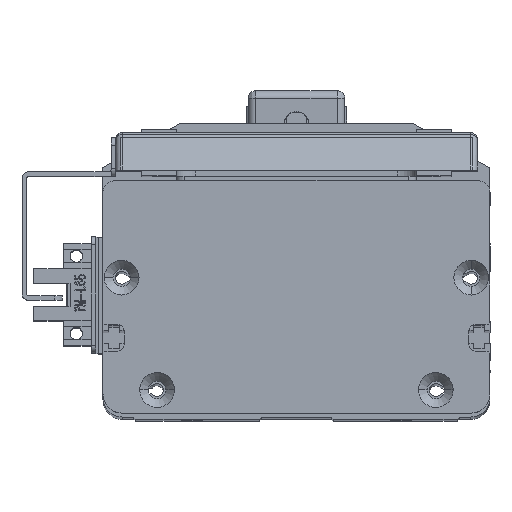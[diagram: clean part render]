
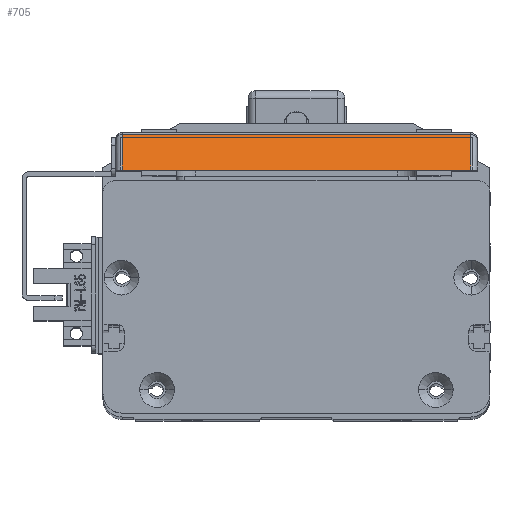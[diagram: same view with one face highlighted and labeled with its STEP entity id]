
A CAD part, top view. The second image highlights one B-rep face of the part: STEP entity #705.
In plain terms, the highlighted planar face has unit normal (0, 0.707, 0.707) as drawn and (-0.707, 0, -0.707) by its records, which use the part's own axes.
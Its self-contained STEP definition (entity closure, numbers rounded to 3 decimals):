
#705 = ADVANCED_FACE ( 'NONE', ( #4361 ), #32374, .T. ) ;
#1484 = VERTEX_POINT ( 'NONE', #48482 ) ;
#3068 = ORIENTED_EDGE ( 'NONE', *, *, #31926, .T. ) ;
#4361 = FACE_OUTER_BOUND ( 'NONE', #45849, .T. ) ;
#4397 = EDGE_CURVE ( 'NONE', #52660, #1484, #57480, .T. ) ;
#4455 = LINE ( 'NONE', #41676, #38991 ) ;
#6793 = DIRECTION ( 'NONE',  ( -0.707, 0., 0.707 ) ) ;
#7359 = LINE ( 'NONE', #36680, #57985 ) ;
#8803 = VECTOR ( 'NONE', #45906, 1000. ) ;
#11960 = CARTESIAN_POINT ( 'NONE',  ( -66.5, 1.7, 4.1 ) ) ;
#18803 = AXIS2_PLACEMENT_3D ( 'NONE', #42901, #46980, #6793 ) ;
#19774 = VERTEX_POINT ( 'NONE', #43116 ) ;
#22975 = CARTESIAN_POINT ( 'NONE',  ( -57.298, 91.7, -5.102 ) ) ;
#31291 = DIRECTION ( 'NONE',  ( -0.707, 0., 0.707 ) ) ;
#31606 = DIRECTION ( 'NONE',  ( 0., -1., 0. ) ) ;
#31926 = EDGE_CURVE ( 'NONE', #32557, #19774, #36116, .T. ) ;
#32374 = PLANE ( 'NONE',  #18803 ) ;
#32557 = VERTEX_POINT ( 'NONE', #11960 ) ;
#36116 = LINE ( 'NONE', #51084, #8803 ) ;
#36680 = CARTESIAN_POINT ( 'NONE',  ( -68., 1.7, 5.6 ) ) ;
#38991 = VECTOR ( 'NONE', #63943, 1000. ) ;
#40098 = EDGE_CURVE ( 'NONE', #1484, #32557, #7359, .T. ) ;
#41676 = CARTESIAN_POINT ( 'NONE',  ( -68., 91.7, 5.6 ) ) ;
#42901 = CARTESIAN_POINT ( 'NONE',  ( -68., 93.4, 5.6 ) ) ;
#43116 = CARTESIAN_POINT ( 'NONE',  ( -66.5, 91.7, 4.1 ) ) ;
#45849 = EDGE_LOOP ( 'NONE', ( #58215, #3068, #49376, #52372 ) ) ;
#45906 = DIRECTION ( 'NONE',  ( 0., 1., 0. ) ) ;
#46980 = DIRECTION ( 'NONE',  ( -0.707, 0., -0.707 ) ) ;
#48482 = CARTESIAN_POINT ( 'NONE',  ( -57.298, 1.7, -5.102 ) ) ;
#49376 = ORIENTED_EDGE ( 'NONE', *, *, #50581, .T. ) ;
#50581 = EDGE_CURVE ( 'NONE', #19774, #52660, #4455, .T. ) ;
#51084 = CARTESIAN_POINT ( 'NONE',  ( -66.5, 93.4, 4.1 ) ) ;
#52372 = ORIENTED_EDGE ( 'NONE', *, *, #4397, .T. ) ;
#52660 = VERTEX_POINT ( 'NONE', #22975 ) ;
#57480 = LINE ( 'NONE', #61965, #59082 ) ;
#57985 = VECTOR ( 'NONE', #31291, 1000. ) ;
#58215 = ORIENTED_EDGE ( 'NONE', *, *, #40098, .T. ) ;
#59082 = VECTOR ( 'NONE', #31606, 1000. ) ;
#61965 = CARTESIAN_POINT ( 'NONE',  ( -57.298, 93.4, -5.102 ) ) ;
#63943 = DIRECTION ( 'NONE',  ( 0.707, 0., -0.707 ) ) ;
